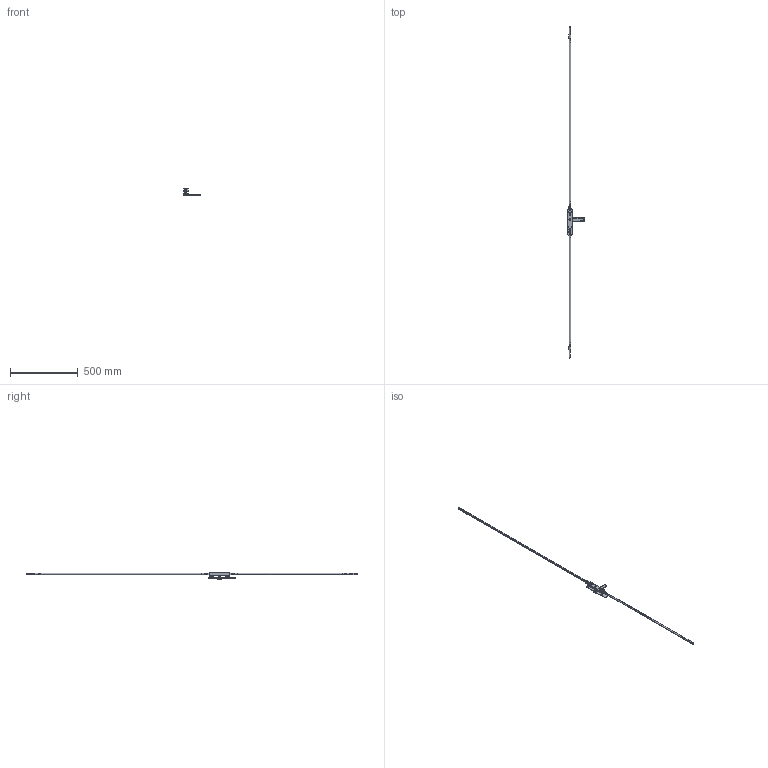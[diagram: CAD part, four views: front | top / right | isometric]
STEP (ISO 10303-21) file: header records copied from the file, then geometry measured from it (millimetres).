
FILE_DESCRIPTION (( 'STEP AP214' ), '1' );
FILE_NAME ('TPL-H-APC-101-A 17Oct2024.STEP', '2024-10-17T04:27:06', ( '' ), ( '' ), 'SwSTEP 2.0', 'SolidWorks 2023', '' );
FILE_SCHEMA (( 'AUTOMOTIVE_DESIGN' ));
Length unit declared in the file: millimetre
Products named in the file (16): Copy of LKC-540 Transmission rod aluminium system TPLGen2^TPL-H-APC-601 16Oct2024_2885mm; Copy of LKC-576 Bolt adaptor - simplified^TPL-H-APC-601 16Oct2024; TPLGen2 push rod - simplified_Female thread M10; Copy of LKC-516 Escutcheon plate unkeyed 195mm long zinc - simplified^Copy of TPGen2 handle non-keyed short zinc - simplified_TPL-H-APC-601 16Oct2024; TPL-H-APC-101-A 17Oct2024; Copy of TPLGen2 lock body non-keyed^Copy of TPLGen2 lock body non-keyed assembly_TPL-H-APC-601 16Oct2024; Copy (2) of LKC-540 Transmission rod aluminium system TPLGen2^TPL-H-APC-601 16Oct2024_2885mm; Copy of LKC-532 Rod connector - simplified^TPL-H-APC-601 16Oct2024; Copy of LKC-585 Rotator body zinc^Copy of TPGen2 handle non-keyed short zinc - simplified_TPL-H-APC-601 16Oct2024; Copy of LKC-586 Spindle square 8mm with M4 hole^Copy of TPGen2 handle non-keyed short zinc - simplified_TPL-H-APC-601 16Oct2024_37mm; Copy of LKC-584 Pivot body zinc - simplified^Copy of TPGen2 handle non-keyed short zinc - simplified_TPL-H-APC-601 16Oct2024; Copy of TPL-H-APC-515 04Oct2024^TPL-H-APC-601 16Oct2024; Copy of TPGen2 handle non-keyed short zinc - simplified^TPL-H-APC-601 16Oct2024_Left; Copy of TPLGen2 lock body non-keyed assembly^TPL-H-APC-601 16Oct2024_Bolts retracted; Copy of TPL-H-APC-517 04Oct2024^TPL-H-APC-601 16Oct2024; Copy of LKC-505 Swing handle zinc - simplified^Copy of TPGen2 handle non-keyed short zinc - simplified_TPL-H-APC-601 16Oct2024
Assembly tree (20 placements, depth 3):
  TPL-H-APC-101-A 17Oct2024
    Copy of TPLGen2 lock body non-keyed assembly^TPL-H-APC-601 16Oct2024_Bolts retracted
      Copy of TPLGen2 lock body non-keyed^Copy of TPLGen2 lock body non-keyed assembly_TPL-H-APC-601 16Oct2024
      TPLGen2 push rod - simplified_Female thread M10  x2
    Copy of TPGen2 handle non-keyed short zinc - simplified^TPL-H-APC-601 16Oct2024_Left
      Copy of LKC-516 Escutcheon plate unkeyed 195mm long zinc - simplified^Copy of TPGen2 handle non-keyed short zinc - simplified_TPL-H-APC-601 16Oct2024
      Copy of LKC-505 Swing handle zinc - simplified^Copy of TPGen2 handle non-keyed short zinc - simplified_TPL-H-APC-601 16Oct2024
      Copy of LKC-585 Rotator body zinc^Copy of TPGen2 handle non-keyed short zinc - simplified_TPL-H-APC-601 16Oct2024
      Copy of LKC-586 Spindle square 8mm with M4 hole^Copy of TPGen2 handle non-keyed short zinc - simplified_TPL-H-APC-601 16Oct2024_37mm
      Copy of LKC-584 Pivot body zinc - simplified^Copy of TPGen2 handle non-keyed short zinc - simplified_TPL-H-APC-601 16Oct2024
    Copy of LKC-532 Rod connector - simplified^TPL-H-APC-601 16Oct2024  x2
    Copy of LKC-540 Transmission rod aluminium system TPLGen2^TPL-H-APC-601 16Oct2024_2885mm
    Copy (2) of LKC-540 Transmission rod aluminium system TPLGen2^TPL-H-APC-601 16Oct2024_2885mm
    Copy of LKC-576 Bolt adaptor - simplified^TPL-H-APC-601 16Oct2024  x2
    Copy of TPL-H-APC-517 04Oct2024^TPL-H-APC-601 16Oct2024  x2
    Copy of TPL-H-APC-515 04Oct2024^TPL-H-APC-601 16Oct2024  x2
Bounding box: 125.62 x 2445.9 x 51.46 mm (x, y, z)
Volume: 263154.8 mm3; surface area: 212484.4 mm2
Topology: 18 solids, 18 shells, 1211 faces, 2950 edges, 1796 vertices
Faces by surface type: plane 366, cylinder 336, bspline 273, cone 118, torus 92, sphere 26
Entity records: 34663 total; most frequent: CARTESIAN_POINT 14153, ORIENTED_EDGE 4456, DIRECTION 3768, EDGE_CURVE 2228, AXIS2_PLACEMENT_3D 1430, VERTEX_POINT 1369, EDGE_LOOP 1023, FACE_OUTER_BOUND 932
